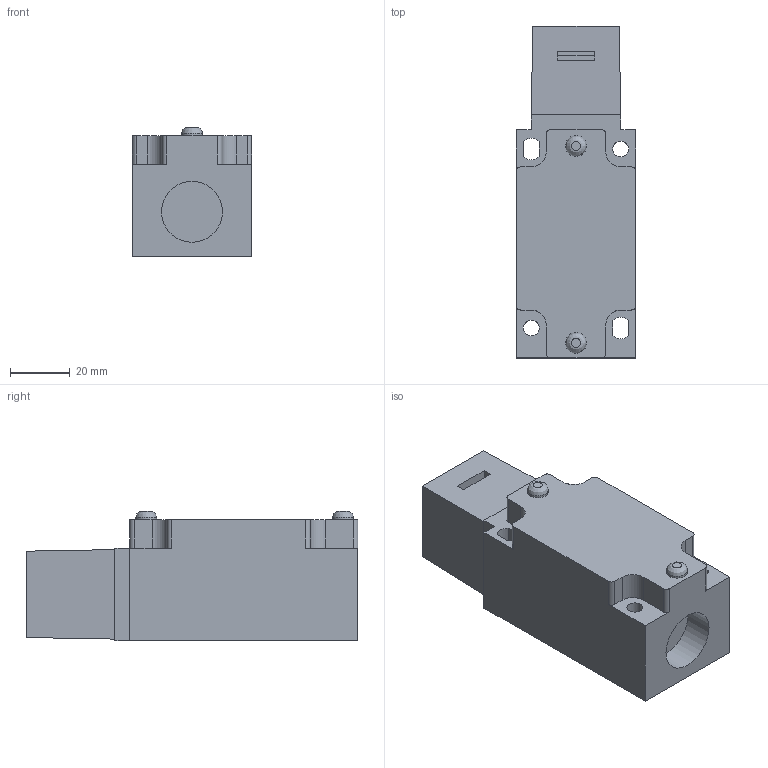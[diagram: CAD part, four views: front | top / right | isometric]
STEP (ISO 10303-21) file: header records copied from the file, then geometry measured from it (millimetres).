
FILE_DESCRIPTION((''),'2;1');
FILE_NAME('C:\Workarea\Disegni\Comepi\Catalogo\Stp\Finecorsa\SBM1-K30.iam.step','2011-10-05T16:28:39',(''),(''),'Autodesk Inventor 2012','Autodesk Inventor 2012','');
FILE_SCHEMA(('AUTOMOTIVE_DESIGN { 1 0 10303 214 1 1 1 1 }'));
Length unit declared in the file: millimetre
Products named in the file (3): SBM1-K30; SBM1; K30_40
Assembly tree (2 placements, depth 2):
  SBM1-K30
    SBM1
    K30_40
Bounding box: 40 x 111.25 x 43.3 mm (x, y, z)
Volume: 141848.4 mm3; surface area: 24715.2 mm2
Topology: 2 solids, 2 shells, 68 faces, 182 edges, 121 vertices
Faces by surface type: plane 45, cylinder 21, bspline 2
Full cylindrical faces by diameter (mm): 5.3 x2, 7 x2, 20.4 x1
Entity records: 2260 total; most frequent: CARTESIAN_POINT 455, DIRECTION 360, ORIENTED_EDGE 348, EDGE_CURVE 174, VECTOR 130, LINE 130, VERTEX_POINT 120, AXIS2_PLACEMENT_3D 115
